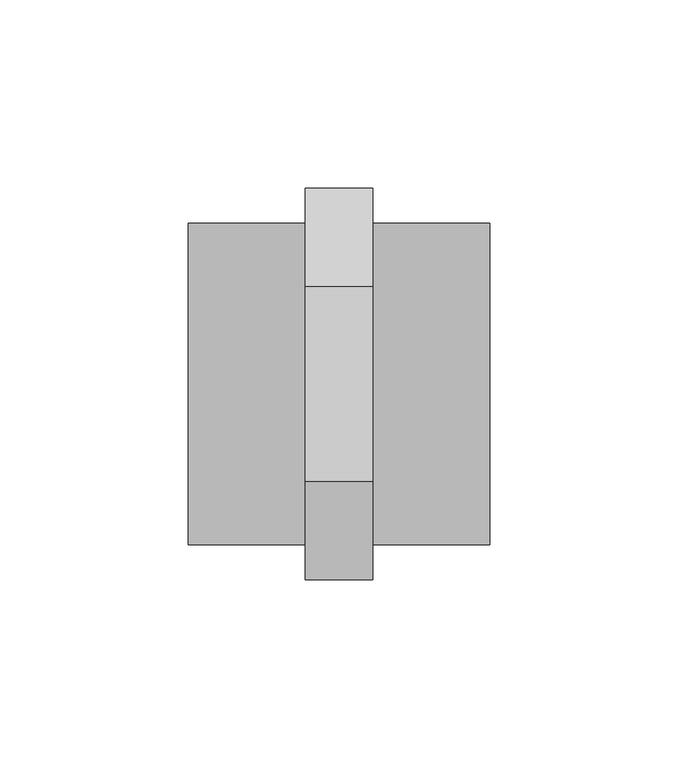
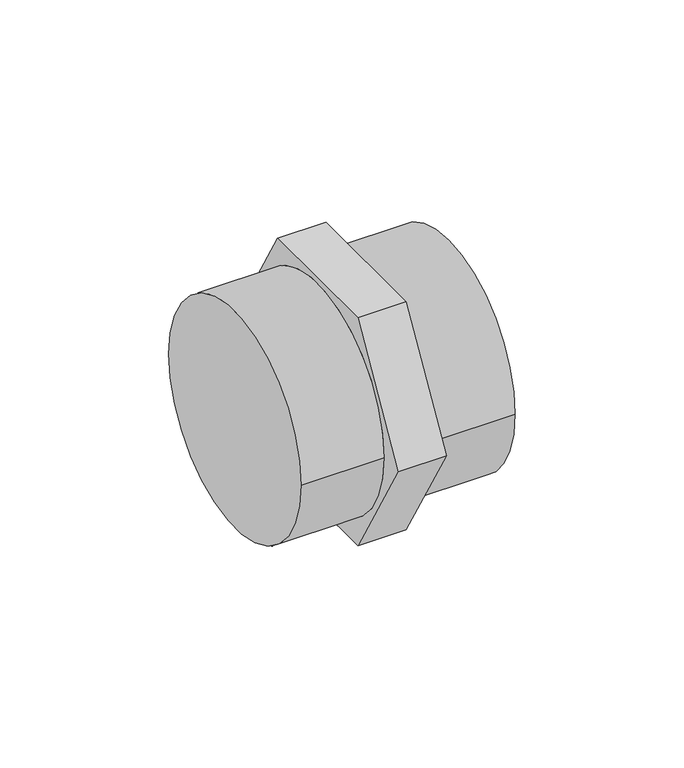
"""IFC4 building model written with IfcOpenShell, lengths in millimetres: pipe fitting geometry, 01011005 : Manchons."""

from ifc_helpers import new_model, si_unit, frame, origin, place, context, project, spatial, circle_curve, source, transform, mapped, element, save
from ifc_brep_helpers import plane_surface, cylinder_surface, advanced_brep


def pipe_fitting_92b4539b(model_context):
    return source(origin(), model_context, "Body", "AdvancedBrep", [
        advanced_brep(
        [(9.0, -25.9807621, 45.0), (9.0, -51.9615242, 0.0), (9.0, -25.9807621, -45.0), (9.0, 25.9807621, -45.0), (9.0, 51.9615242, 0.0), (9.0, 25.9807621, 45.0), (9.0, -42.75, 0.0), (9.0, 42.75, 0.0), (-9.0, -25.9807621, 45.0), (-9.0, 25.9807621, 45.0), (-9.0, 51.9615242, 0.0), (-9.0, 25.9807621, -45.0), (-9.0, -25.9807621, -45.0), (-9.0, -51.9615242, 0.0), (-9.0, 42.75, 0.0), (-9.0, -42.75, 0.0), (-40.0, -42.75, 0.0), (-40.0, 42.75, 0.0), (40.0, -42.75, 0.0), (40.0, 42.75, 0.0)],
        [
            (0, 1),
            (1, 2),
            (2, 3),
            (3, 4),
            (4, 5),
            (5, 0),
            (6, 7, circle_curve(frame((9.0, 0.0, 0.0), z_axis=(-1.0, 0.0, 0.0), x_axis=(0.0, 1.0, 0.0)), 42.75)),
            (7, 6, circle_curve(frame((9.0, 0.0, 0.0), z_axis=(-1.0, 0.0, 0.0), x_axis=(0.0, 1.0, 0.0)), 42.75)),
            (8, 9),
            (9, 10),
            (10, 11),
            (11, 12),
            (12, 13),
            (13, 8),
            (14, 15, circle_curve(frame((-9.0, 0.0, 0.0), z_axis=(1.0, 0.0, 0.0), x_axis=(0.0, 1.0, 0.0)), 42.75)),
            (15, 14, circle_curve(frame((-9.0, 0.0, 0.0), z_axis=(1.0, 0.0, 0.0), x_axis=(0.0, 1.0, 0.0)), 42.75)),
            (0, 8),
            (13, 1),
            (12, 2),
            (11, 3),
            (10, 4),
            (9, 5),
            (16, 17, circle_curve(frame((-40.0, 0.0, 0.0), z_axis=(-1.0, 0.0, 0.0), x_axis=(0.0, 1.0, 0.0)), 42.75)),
            (17, 16, circle_curve(frame((-40.0, 0.0, 0.0), z_axis=(-1.0, 0.0, 0.0), x_axis=(0.0, 1.0, 0.0)), 42.75)),
            (18, 19, circle_curve(frame((40.0, 0.0, 0.0), z_axis=(1.0, 0.0, 0.0), x_axis=(0.0, 1.0, 0.0)), 42.75)),
            (19, 18, circle_curve(frame((40.0, 0.0, 0.0), z_axis=(1.0, 0.0, 0.0), x_axis=(0.0, 1.0, 0.0)), 42.75)),
            (16, 15),
            (14, 17),
            (19, 7),
            (6, 18),
        ],
        [
            plane_surface(frame((9.0, -25.9807621, 45.0), z_axis=(1.0, 0.0, 0.0), x_axis=(0.0, -0.5000000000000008, -0.8660254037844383))),
            plane_surface(frame((-9.0, -25.9807621, 45.0), z_axis=(-1.0, 0.0, 0.0), x_axis=(0.0, 0.5000000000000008, 0.8660254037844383))),
            plane_surface(frame((9.0, -25.9807621, 45.0), z_axis=(0.0, -0.8660254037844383, 0.5000000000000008), x_axis=(-1.0, 0.0, 0.0))),
            plane_surface(frame((9.0, -51.9615242, 0.0), z_axis=(0.0, -0.866025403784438, -0.500000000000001), x_axis=(-1.0, 0.0, 0.0))),
            plane_surface(frame((9.0, -25.9807621, -45.0), z_axis=(0.0, 0.0, -1.0), x_axis=(-1.0, 0.0, 0.0))),
            plane_surface(frame((9.0, 25.9807621, -45.0), z_axis=(0.0, 0.8660254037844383, -0.5000000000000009), x_axis=(-1.0, 0.0, 0.0))),
            plane_surface(frame((9.0, 51.9615242, 0.0), z_axis=(0.0, 0.8660254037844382, 0.5000000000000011), x_axis=(-1.0, 0.0, 0.0))),
            plane_surface(frame((9.0, 25.9807621, 45.0), z_axis=(0.0, 0.0, 1.0), x_axis=(-1.0, 0.0, 0.0))),
            plane_surface(frame((-40.0, 0.0, 0.0), z_axis=(-1.0, 0.0, 0.0), x_axis=(0.0, 0.0, 1.0))),
            plane_surface(frame((40.0, 0.0, 0.0), z_axis=(1.0, 0.0, 0.0), x_axis=(0.0, 0.0, 1.0))),
            cylinder_surface(frame((-40.0, 0.0, 0.0), z_axis=(-1.0, 0.0, 0.0), x_axis=(0.0, 1.0, 0.0)), 42.75),
        ],
        [
            (0, [[1, 2, 3, 4, 5, 6], [7, 8]]),
            (1, [[9, 10, 11, 12, 13, 14], [15, 16]]),
            (2, [[-1, 17, -14, 18]]),
            (3, [[-2, -18, -13, 19]]),
            (4, [[-3, -19, -12, 20]]),
            (5, [[-4, -20, -11, 21]]),
            (6, [[-5, -21, -10, 22]]),
            (7, [[-6, -22, -9, -17]]),
            (8, [[23, 24]]),
            (9, [[25, 26]]),
            (10, [[-23, 27, -15, 28]]),
            (10, [[-26, 29, -7, 30]]),
            (10, [[-24, -28, -16, -27]]),
            (10, [[-25, -30, -8, -29]]),
        ],
    ),
    ])


if __name__ == "__main__":
    model = new_model("IFC4")
    model_context = context("Model", 3, world=origin())
    ifc_project = project(units=[si_unit("LENGTHUNIT", "METRE", prefix="MILLI")], contexts=[model_context])
    site = spatial("IfcSite", under=ifc_project)
    building = spatial("IfcBuilding", under=site)
    placement = place(None, origin())
    pipe_fitting_shape = pipe_fitting_92b4539b(model_context)
    element("IfcPipeFitting", 1, ObjectType="01011005 : Manchons", at=placement, inside=building, context=model_context, shape_type="MappedRepresentation", body=[
        mapped(pipe_fitting_shape, transform((0.0, 0.0, 0.0), x_axis=(1.0, 0.0, 0.0), y_axis=(0.0, 1.0, 0.0), z_axis=(0.0, 0.0, 1.0))),
    ])
    save(model, "model.ifc")
